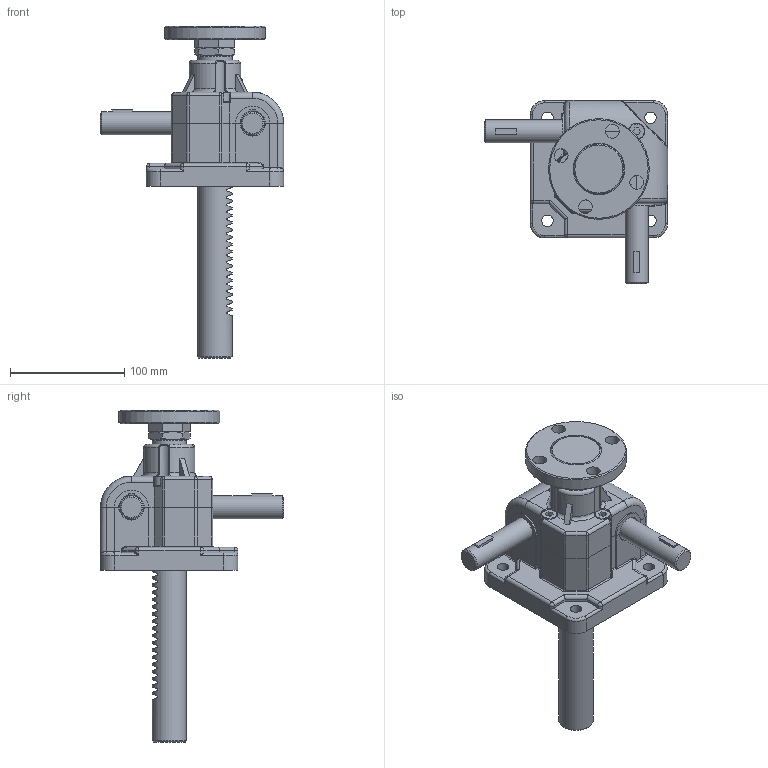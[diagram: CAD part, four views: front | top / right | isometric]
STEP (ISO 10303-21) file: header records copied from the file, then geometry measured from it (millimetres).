
FILE_DESCRIPTION(('STEP AP203'),'1');
FILE_NAME('SP1-900F-150ST.stp','2016-08-05T05:34:31',(' '),(' '),'Spatial InterOp 3D',' ',' ');
FILE_SCHEMA(('CONFIG_CONTROL_DESIGN'));
Length unit declared in the file: millimetre
Products named in the file (26): SP1-900F-150ST; Rack Gear(SP-900F); Flange-Part; Nut; Joint; Flange; Body-Part; Nipple; Gear Box(Upper); Body_stand by; Gear Box(Lower); RJ05-4SCJ-610X600-100ST_CAP; LABEL-B.1; ___; 파트18; __ 
Assembly tree (29 placements, depth 5):
  SP1-900F-150ST
    Rack Gear(SP-900F)
    Flange-Part
      Nut
      Joint
      Flange
    Body-Part
      (unnamed)  x2
      (unnamed)  x3
      Nipple
      (unnamed)  x2
      Gear Box(Upper)
        Body_stand by
        Body_stand by
        Body_stand by
        Body_stand by
      Gear Box(Lower)
        Body_stand by
        Body_stand by
        Body_stand by
        Body_stand by
    __ 
      ___
        RJ05-4SCJ-610X600-100ST_CAP
          LABEL-B.1
        파트18
Bounding box: 160 x 160.22 x 290 mm (x, y, z)
Volume: 325777.9 mm3; surface area: 204051.6 mm2
Topology: 19 solids, 696 shells, 2658 faces, 9161 edges, 7186 vertices
Faces by surface type: plane 2017, cylinder 481, torus 51, bspline 46, sphere 25, cone 22, extrusion 9, revolution 7
Full cylindrical faces by diameter (mm): 3.113 x1, 6 x1, 6.6 x1, 8 x3, 12 x4, 14 x3, 20 x2, 25 x2, 27 x1, 30 x1, 37 x1, 38 x1, 44 x1, 45 x1, 88 x1
Entity records: 107899 total; most frequent: CARTESIAN_POINT 31188, DIRECTION 14691, ORIENTED_EDGE 14360, EDGE_CURVE 8890, VERTEX_POINT 7066, VECTOR 6746, LINE 6737, AXIS2_PLACEMENT_3D 3969
